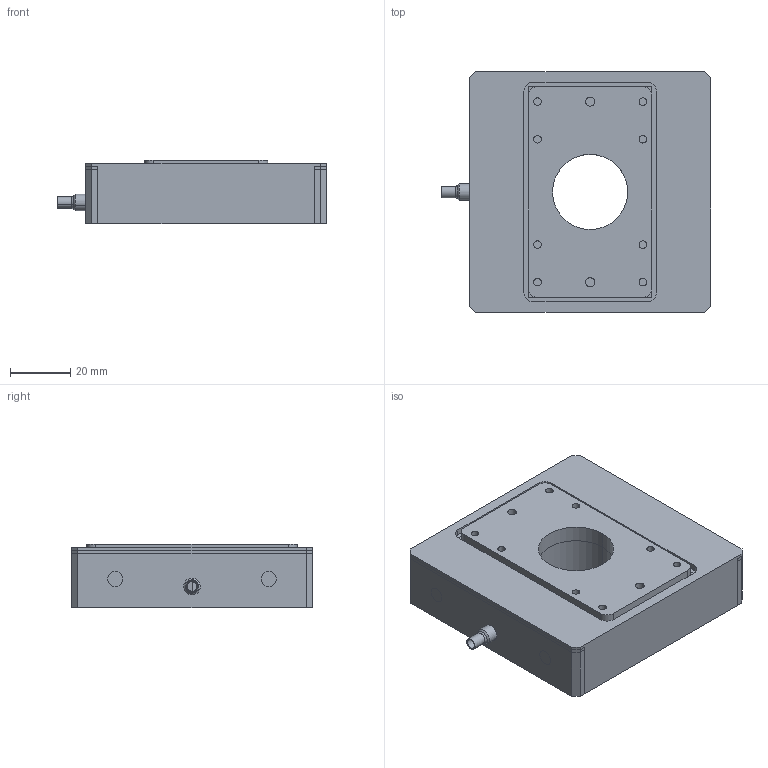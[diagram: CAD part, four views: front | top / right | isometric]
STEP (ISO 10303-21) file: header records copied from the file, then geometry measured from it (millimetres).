
FILE_DESCRIPTION (( 'STEP AP203' ), '1' );
FILE_NAME ('P78A.Z200K-B1三维外形-22.11.24.STEP', '2022-11-24T00:55:21', ( 'Windows 用户' ), ( '微软中国' ), 'SwSTEP 2.0', 'SolidWorks 2016', '' );
FILE_SCHEMA (( 'CONFIG_CONTROL_DESIGN' ));
Length unit declared in the file: millimetre
Products named in the file (1): P78A.Z200K-B1三维外形-22.11.24
Bounding box: 89.4 x 80 x 21 mm (x, y, z)
Surface area: 23533.3 mm2 (no closed solid volume)
Topology: 0 solids, 8 shells, 101 faces, 318 edges, 226 vertices
Faces by surface type: cylinder 58, plane 37, torus 4, cone 2
Entity records: 3668 total; most frequent: DIRECTION 668, CARTESIAN_POINT 646, ORIENTED_EDGE 514, EDGE_CURVE 318, AXIS2_PLACEMENT_3D 248, VERTEX_POINT 226, LINE 172, VECTOR 172
